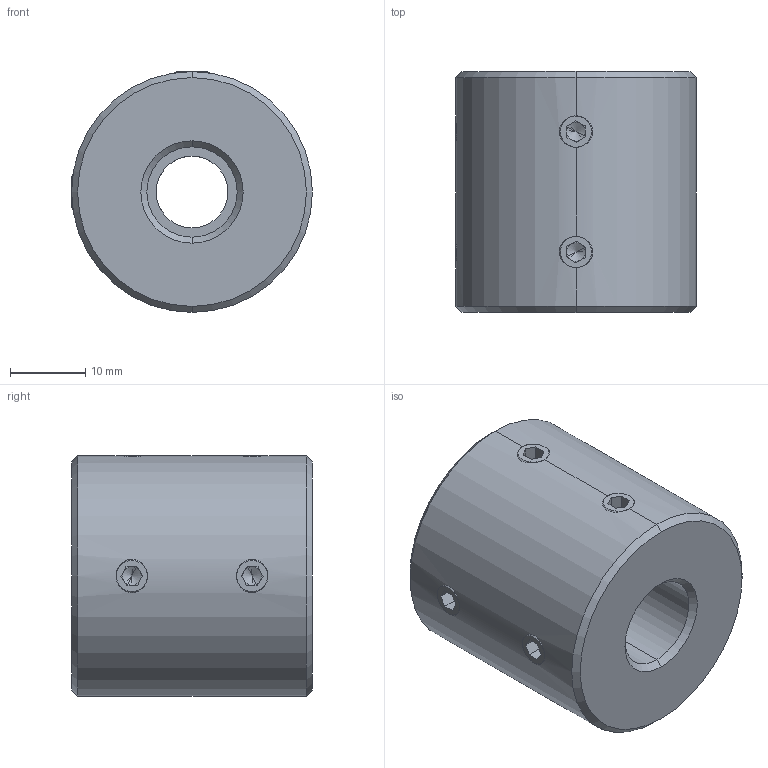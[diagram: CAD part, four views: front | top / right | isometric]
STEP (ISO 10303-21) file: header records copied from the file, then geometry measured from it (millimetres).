
FILE_DESCRIPTION (( 'STEP AP214' ), '1' );
FILE_NAME ('LL-D-D32L32-9.525-12½¨Ä£.STEP', '2022-07-22T11:27:08', ( '' ), ( '' ), 'SwSTEP 2.0', 'SolidWorks 2022', '' );
FILE_SCHEMA (( 'AUTOMOTIVE_DESIGN' ));
Length unit declared in the file: millimetre
Products named in the file (1): LL-D-D32L32-9.525-12膘耀
Bounding box: 32 x 32 x 32 mm (x, y, z)
Volume: 22500.2 mm3; surface area: 5887.2 mm2
Topology: 1 solids, 1 shells, 113 faces, 286 edges, 176 vertices
Faces by surface type: plane 59, cone 32, cylinder 22
Entity records: 3752 total; most frequent: CARTESIAN_POINT 1042, DIRECTION 558, ORIENTED_EDGE 556, EDGE_CURVE 278, AXIS2_PLACEMENT_3D 206, VERTEX_POINT 176, VECTOR 146, LINE 146
